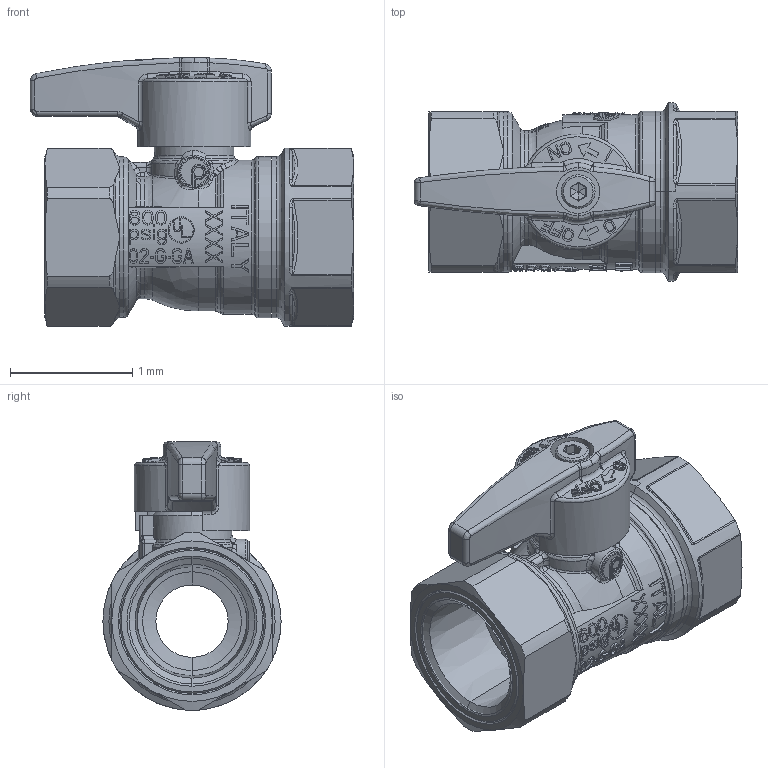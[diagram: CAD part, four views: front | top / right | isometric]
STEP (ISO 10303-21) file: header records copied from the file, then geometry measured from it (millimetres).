
FILE_DESCRIPTION(('Open CASCADE Model'),'2;1');
FILE_NAME('Open CASCADE Shape Model','2022-05-31T10:10:46',('Author'),( 'Open CASCADE'),'Open CASCADE STEP processor 7.3','Open CASCADE 7.3' ,'Unknown');
FILE_SCHEMA(('AUTOMOTIVE_DESIGN { 1 0 10303 214 1 1 1 1 }'));
Length unit declared in the file: millimetre
Products named in the file (15): Open CASCADE STEP translator 7.3 1; Open CASCADE STEP translator 7.3 1.1; Open CASCADE STEP translator 7.3 1.2; Open CASCADE STEP translator 7.3 1.3; Open CASCADE STEP translator 7.3 1.4; Open CASCADE STEP translator 7.3 1.5; Open CASCADE STEP translator 7.3 1.6; Open CASCADE STEP translator 7.3 1.7; Open CASCADE STEP translator 7.3 1.8; Open CASCADE STEP translator 7.3 1.9; Open CASCADE STEP translator 7.3 1.10; Open CASCADE STEP translator 7.3 1.11; Open CASCADE STEP translator 7.3 1.12; Open CASCADE STEP translator 7.3 1.13; Open CASCADE STEP translator 7.3 1.14
Assembly tree (14 placements, depth 2):
  Open CASCADE STEP translator 7.3 1
    Open CASCADE STEP translator 7.3 1.1
    Open CASCADE STEP translator 7.3 1.2
    Open CASCADE STEP translator 7.3 1.3
    Open CASCADE STEP translator 7.3 1.4
    Open CASCADE STEP translator 7.3 1.5
    Open CASCADE STEP translator 7.3 1.6
    Open CASCADE STEP translator 7.3 1.7
    Open CASCADE STEP translator 7.3 1.8
    Open CASCADE STEP translator 7.3 1.9
    Open CASCADE STEP translator 7.3 1.10
    Open CASCADE STEP translator 7.3 1.11
    Open CASCADE STEP translator 7.3 1.12
    Open CASCADE STEP translator 7.3 1.13
    Open CASCADE STEP translator 7.3 1.14
Bounding box: 2.64 x 1.46 x 2.2 mm (x, y, z)
Volume: 2.7 mm3; surface area: 45.8 mm2
Topology: 8 solids, 14 shells, 1912 faces, 5137 edges, 3328 vertices
Faces by surface type: bspline 1008, plane 468, cylinder 214, cone 99, torus 99, sphere 24
Entity records: 181665 total; most frequent: CARTESIAN_POINT 97183, ORIENTED_EDGE 10242, PCURVE 10242, DEFINITIONAL_REPRESENTATION 10242, DIRECTION 9500, B_SPLINE_CURVE_WITH_KNOTS 8764, EDGE_CURVE 5135, SURFACE_CURVE 5135
